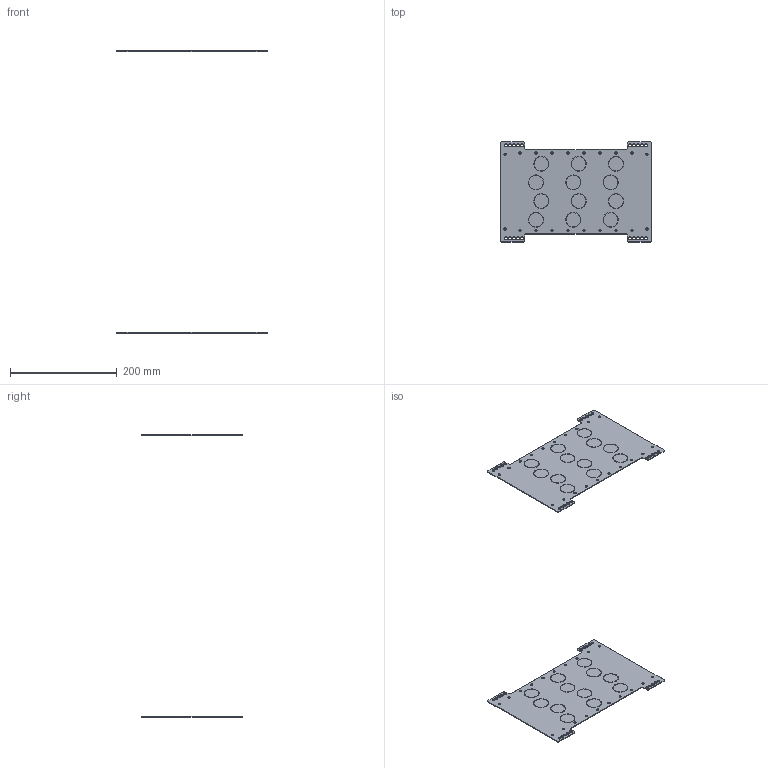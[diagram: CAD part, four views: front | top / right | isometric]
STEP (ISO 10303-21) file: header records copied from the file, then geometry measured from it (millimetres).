
FILE_DESCRIPTION(('CAx-IF Rec.Pracs.---Model Styling and Organization---1.2---2011-12-15','CAx-IF Rec.Pracs.---Geometric and Assembly Validation Properties---4.1---2014-06-16','CAx-IF Rec.Pracs.---PMI Polyline Presentation---2.0---2013-05-24'),'2;1');
FILE_NAME('R5SVP200134P.stp','2021-05-06T02:36:09+03:00',(''),(''),'STEP Interface 4.4 by CT CoreTechnologie','3D_Evolution4.4 by CT CoreTechnologie','');
FILE_SCHEMA(('AUTOMOTIVE_DESIGN { 1 0 10303 214 1 1 1 1 }'));
Length unit declared in the file: millimetre
Products named in the file (2): R5SVP200134P; RB.1045.00.00.0_-01
Assembly tree (2 placements, depth 2):
  R5SVP200134P
    RB.1045.00.00.0_-01  x2
Bounding box: 283 x 188 x 529 mm (x, y, z)
Surface area: 195518.2 mm2 (no closed solid volume)
Topology: 0 solids, 2 shells, 548 faces, 1632 edges, 1088 vertices
Faces by surface type: cylinder 352, plane 196
Entity records: 9749 total; most frequent: DIRECTION 1722, CARTESIAN_POINT 1637, ORIENTED_EDGE 1632, EDGE_CURVE 816, AXIS2_PLACEMENT_3D 629, VERTEX_POINT 544, VECTOR 464, LINE 464
